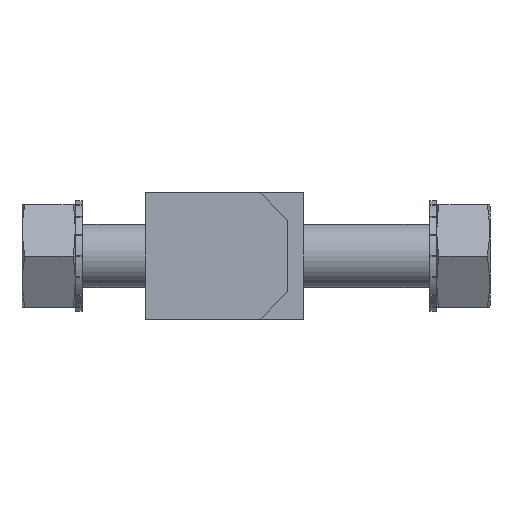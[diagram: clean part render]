
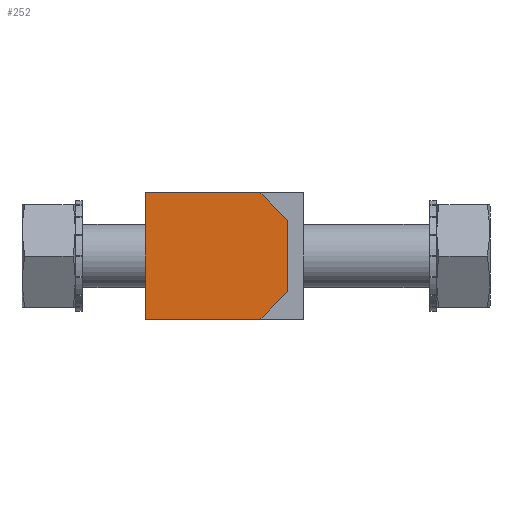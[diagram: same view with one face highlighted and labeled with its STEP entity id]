
A CAD part, front view. The second image highlights one B-rep face of the part: STEP entity #252.
In plain terms, the highlighted planar face has unit normal (0, -1, 0).
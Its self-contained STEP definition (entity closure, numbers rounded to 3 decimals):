
#252 = ADVANCED_FACE( '', ( #420 ), #421, .F. );
#420 = FACE_OUTER_BOUND( '', #717, .T. );
#421 = PLANE( '', #718 );
#717 = EDGE_LOOP( '', ( #1103, #1104, #1105, #1106, #1107, #1108 ) );
#718 = AXIS2_PLACEMENT_3D( '', #1109, #1110, #1111 );
#1103 = ORIENTED_EDGE( '', *, *, #1996, .F. );
#1104 = ORIENTED_EDGE( '', *, *, #2013, .F. );
#1105 = ORIENTED_EDGE( '', *, *, #2010, .F. );
#1106 = ORIENTED_EDGE( '', *, *, #2007, .F. );
#1107 = ORIENTED_EDGE( '', *, *, #2004, .F. );
#1108 = ORIENTED_EDGE( '', *, *, #2001, .F. );
#1109 = CARTESIAN_POINT( '', ( 0., -24.5, 0. ) );
#1110 = DIRECTION( '', ( 0., 1., 0. ) );
#1111 = DIRECTION( '', ( 0., 0., 1. ) );
#1996 = EDGE_CURVE( '', #2321, #2322, #2323, .T. );
#2001 = EDGE_CURVE( '', #2322, #2331, #2332, .T. );
#2004 = EDGE_CURVE( '', #2331, #2336, #2337, .T. );
#2007 = EDGE_CURVE( '', #2336, #2341, #2342, .T. );
#2010 = EDGE_CURVE( '', #2341, #2346, #2347, .T. );
#2013 = EDGE_CURVE( '', #2346, #2321, #2351, .T. );
#2321 = VERTEX_POINT( '', #2843 );
#2322 = VERTEX_POINT( '', #2844 );
#2323 = LINE( '', #2845, #2846 );
#2331 = VERTEX_POINT( '', #2857 );
#2332 = LINE( '', #2858, #2859 );
#2336 = VERTEX_POINT( '', #2865 );
#2337 = LINE( '', #2866, #2867 );
#2341 = VERTEX_POINT( '', #2873 );
#2342 = LINE( '', #2874, #2875 );
#2346 = VERTEX_POINT( '', #2881 );
#2347 = LINE( '', #2882, #2883 );
#2351 = LINE( '', #2889, #2890 );
#2843 = CARTESIAN_POINT( '', ( 4.5, -24.5, -8. ) );
#2844 = CARTESIAN_POINT( '', ( -10., -24.5, -8. ) );
#2845 = CARTESIAN_POINT( '', ( 4.5, -24.5, -8. ) );
#2846 = VECTOR( '', #3590, 1000. );
#2857 = CARTESIAN_POINT( '', ( -10., -24.5, 8. ) );
#2858 = CARTESIAN_POINT( '', ( -10., -24.5, -8. ) );
#2859 = VECTOR( '', #3597, 1000. );
#2865 = CARTESIAN_POINT( '', ( 4.5, -24.5, 8. ) );
#2866 = CARTESIAN_POINT( '', ( -10., -24.5, 8. ) );
#2867 = VECTOR( '', #3600, 1000. );
#2873 = CARTESIAN_POINT( '', ( 8., -24.5, 4.5 ) );
#2874 = CARTESIAN_POINT( '', ( 4.5, -24.5, 8. ) );
#2875 = VECTOR( '', #3603, 1000. );
#2881 = CARTESIAN_POINT( '', ( 8., -24.5, -4.5 ) );
#2882 = CARTESIAN_POINT( '', ( 8., -24.5, 4.5 ) );
#2883 = VECTOR( '', #3606, 1000. );
#2889 = CARTESIAN_POINT( '', ( 8., -24.5, -4.5 ) );
#2890 = VECTOR( '', #3609, 1000. );
#3590 = DIRECTION( '', ( -1., 0., 0. ) );
#3597 = DIRECTION( '', ( 0., 0., 1. ) );
#3600 = DIRECTION( '', ( 1., 0., 0. ) );
#3603 = DIRECTION( '', ( 0.707, 0., -0.707 ) );
#3606 = DIRECTION( '', ( 0., 0., -1. ) );
#3609 = DIRECTION( '', ( -0.707, 0., -0.707 ) );
